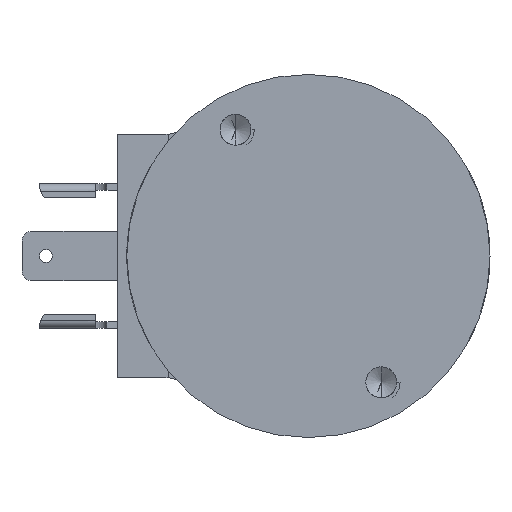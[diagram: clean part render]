
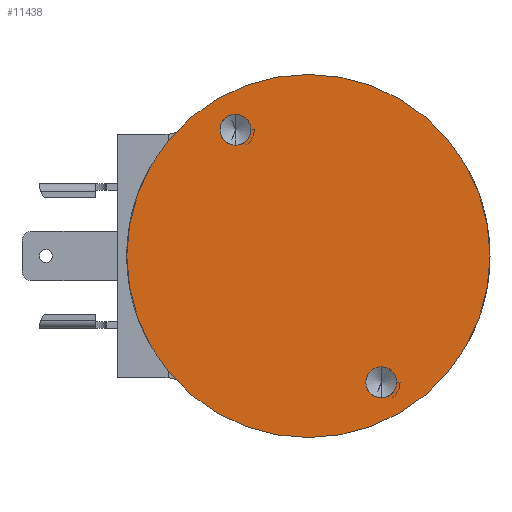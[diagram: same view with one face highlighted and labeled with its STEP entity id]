
A CAD part, front view. The second image highlights one B-rep face of the part: STEP entity #11438.
In plain terms, the highlighted planar face has unit normal (0, -1, 0).
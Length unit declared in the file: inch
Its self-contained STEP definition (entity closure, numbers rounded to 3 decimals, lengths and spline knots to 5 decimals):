
#57 = DIRECTION ( 'NONE',  ( 0., -1., 0. ) ) ;
#134 = VERTEX_POINT ( 'NONE', #12155 ) ;
#433 = EDGE_CURVE ( 'Defeatured_0_29+Defeatured_0_30+Defeatured_0_30+Defeatured_0_30', #18677, #134, #10025, .T. ) ;
#914 = CARTESIAN_POINT ( 'NONE',  ( -0.2955, -1.81, 0.64952 ) ) ;
#1605 = AXIS2_PLACEMENT_3D ( 'NONE', #6472, #57, #15982 ) ;
#2465 = DIRECTION ( 'NONE',  ( 0., 1., 0. ) ) ;
#2766 = AXIS2_PLACEMENT_3D ( 'NONE', #4110, #2465, #18471 ) ;
#4022 = VERTEX_POINT ( 'NONE', #11940 ) ;
#4110 = CARTESIAN_POINT ( 'NONE',  ( 0., -1.81, 0. ) ) ;
#4414 = DIRECTION ( 'NONE',  ( 0., -1., 0. ) ) ;
#4572 = EDGE_LOOP ( 'NONE', ( #4962, #14357 ) ) ;
#4846 = AXIS2_PLACEMENT_3D ( 'NONE', #5670, #8364, #18071 ) ;
#4962 = ORIENTED_EDGE ( 'NONE', *, *, #13245, .F. ) ;
#5317 = CARTESIAN_POINT ( 'NONE',  ( 0., -1.81, 0. ) ) ;
#5551 = AXIS2_PLACEMENT_3D ( 'NONE', #7526, #12190, #13538 ) ;
#5627 = VERTEX_POINT ( 'NONE', #16118 ) ;
#5670 = CARTESIAN_POINT ( 'NONE',  ( 0.375, -1.81, -0.64952 ) ) ;
#6028 = ORIENTED_EDGE ( 'NONE', *, *, #16585, .F. ) ;
#6458 = VERTEX_POINT ( 'NONE', #17225 ) ;
#6472 = CARTESIAN_POINT ( 'NONE',  ( -0.375, -1.81, 0.64952 ) ) ;
#6882 = FACE_BOUND ( 'NONE', #11786, .T. ) ;
#7159 = CIRCLE ( 'NONE', #17711, 0.934 ) ;
#7327 = DIRECTION ( 'NONE',  ( 0., 0., -1. ) ) ;
#7526 = CARTESIAN_POINT ( 'NONE',  ( 0.375, -1.81, -0.64952 ) ) ;
#7849 = CARTESIAN_POINT ( 'NONE',  ( 0., -1.81, 0. ) ) ;
#7996 = ORIENTED_EDGE ( 'NONE', *, *, #16772, .F. ) ;
#8317 = DIRECTION ( 'NONE',  ( 0., -1., 0. ) ) ;
#8364 = DIRECTION ( 'NONE',  ( 0., -1., 0. ) ) ;
#8423 = FACE_OUTER_BOUND ( 'NONE', #4572, .T. ) ;
#8460 = AXIS2_PLACEMENT_3D ( 'NONE', #5317, #9769, #16083 ) ;
#8683 = ORIENTED_EDGE ( 'NONE', *, *, #8913, .F. ) ;
#8913 = EDGE_CURVE ( 'Defeatured_0_142+Defeatured_0_30+Defeatured_0_140+Defeatured_0_139', #5627, #11812, #19036, .T. ) ;
#9174 = AXIS2_PLACEMENT_3D ( 'NONE', #13793, #9220, #14304 ) ;
#9220 = DIRECTION ( 'NONE',  ( 0., -1., 0. ) ) ;
#9670 = PLANE ( 'NONE',  #8460 ) ;
#9769 = DIRECTION ( 'NONE',  ( 0., 1., 0. ) ) ;
#10025 = CIRCLE ( 'NONE', #2766, 0.934 ) ;
#10278 = CARTESIAN_POINT ( 'NONE',  ( 0.375, -1.81, -0.72902 ) ) ;
#10474 = VERTEX_POINT ( 'NONE', #914 ) ;
#10568 = EDGE_CURVE ( 'Defeatured_0_149+Defeatured_0_30+Defeatured_0_147+Defeatured_0_146', #4022, #6458, #19669, .T. ) ;
#10850 = DIRECTION ( 'NONE',  ( 0., 0., 1. ) ) ;
#11438 = ADVANCED_FACE ( 'Defeatured_0_30', ( #6882, #12989, #8423 ), #9670, .F. ) ;
#11786 = EDGE_LOOP ( 'NONE', ( #7996, #20348, #19360 ) ) ;
#11812 = VERTEX_POINT ( 'NONE', #10278 ) ;
#11940 = CARTESIAN_POINT ( 'NONE',  ( -0.375, -1.81, 0.72902 ) ) ;
#12155 = CARTESIAN_POINT ( 'NONE',  ( 0., -1.81, 0.934 ) ) ;
#12190 = DIRECTION ( 'NONE',  ( 0., -1., 0. ) ) ;
#12989 = FACE_BOUND ( 'NONE', #18983, .T. ) ;
#13245 = EDGE_CURVE ( 'Defeatured_0_29+Defeatured_0_30+Defeatured_0_30+Defeatured_0_30', #134, #18677, #7159, .T. ) ;
#13538 = DIRECTION ( 'NONE',  ( 0., 0., -1. ) ) ;
#13793 = CARTESIAN_POINT ( 'NONE',  ( -0.375, -1.81, 0.64952 ) ) ;
#14139 = CIRCLE ( 'NONE', #15782, 0.0795 ) ;
#14166 = DIRECTION ( 'NONE',  ( 0., 1., 0. ) ) ;
#14304 = DIRECTION ( 'NONE',  ( 0., 0., -1. ) ) ;
#14326 = DIRECTION ( 'NONE',  ( 0., 0., -1. ) ) ;
#14357 = ORIENTED_EDGE ( 'NONE', *, *, #433, .F. ) ;
#14727 = ORIENTED_EDGE ( 'NONE', *, *, #16569, .F. ) ;
#15782 = AXIS2_PLACEMENT_3D ( 'NONE', #18473, #4414, #7327 ) ;
#15982 = DIRECTION ( 'NONE',  ( 0., 0., -1. ) ) ;
#16055 = AXIS2_PLACEMENT_3D ( 'NONE', #17616, #8317, #14326 ) ;
#16083 = DIRECTION ( 'NONE',  ( 0., 0., 1. ) ) ;
#16118 = CARTESIAN_POINT ( 'NONE',  ( 0.375, -1.81, -0.57002 ) ) ;
#16446 = CIRCLE ( 'NONE', #9174, 0.0795 ) ;
#16569 = EDGE_CURVE ( 'Defeatured_0_142+Defeatured_0_30+Defeatured_0_140+Defeatured_0_139', #19692, #5627, #18075, .T. ) ;
#16585 = EDGE_CURVE ( 'Defeatured_0_142+Defeatured_0_30+Defeatured_0_140+Defeatured_0_139', #11812, #19692, #14139, .T. ) ;
#16772 = EDGE_CURVE ( 'Defeatured_0_149+Defeatured_0_30+Defeatured_0_147+Defeatured_0_146', #10474, #4022, #16446, .T. ) ;
#17225 = CARTESIAN_POINT ( 'NONE',  ( -0.375, -1.81, 0.57002 ) ) ;
#17580 = CARTESIAN_POINT ( 'NONE',  ( 0., -1.81, -0.934 ) ) ;
#17616 = CARTESIAN_POINT ( 'NONE',  ( -0.375, -1.81, 0.64952 ) ) ;
#17711 = AXIS2_PLACEMENT_3D ( 'NONE', #7849, #14166, #10850 ) ;
#18071 = DIRECTION ( 'NONE',  ( 0., 0., -1. ) ) ;
#18075 = CIRCLE ( 'NONE', #5551, 0.0795 ) ;
#18471 = DIRECTION ( 'NONE',  ( 0., 0., 1. ) ) ;
#18473 = CARTESIAN_POINT ( 'NONE',  ( 0.375, -1.81, -0.64952 ) ) ;
#18677 = VERTEX_POINT ( 'NONE', #17580 ) ;
#18779 = CIRCLE ( 'NONE', #1605, 0.0795 ) ;
#18983 = EDGE_LOOP ( 'NONE', ( #14727, #6028, #8683 ) ) ;
#19036 = CIRCLE ( 'NONE', #4846, 0.0795 ) ;
#19360 = ORIENTED_EDGE ( 'NONE', *, *, #10568, .F. ) ;
#19669 = CIRCLE ( 'NONE', #16055, 0.0795 ) ;
#19692 = VERTEX_POINT ( 'NONE', #20035 ) ;
#20035 = CARTESIAN_POINT ( 'NONE',  ( 0.4545, -1.81, -0.64952 ) ) ;
#20138 = EDGE_CURVE ( 'Defeatured_0_149+Defeatured_0_30+Defeatured_0_147+Defeatured_0_146', #6458, #10474, #18779, .T. ) ;
#20348 = ORIENTED_EDGE ( 'NONE', *, *, #20138, .F. ) ;
